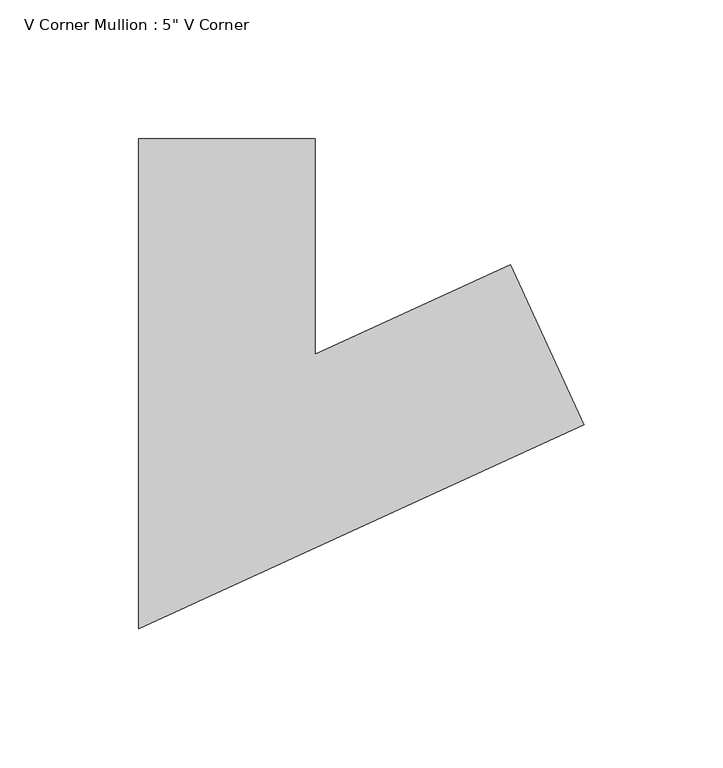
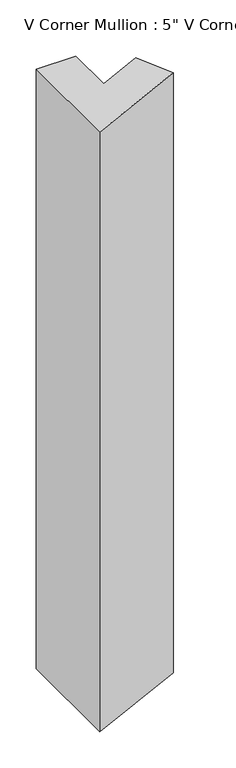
"""IFC4 building model written with IfcOpenShell, lengths in millimetres: member geometry."""

from ifc_helpers import new_model, si_unit, frame, origin, place, context, project, spatial, polyline, outline, extrude, source, transform, mapped, element, save


def member_919c0065(model_context):
    return source(origin(), model_context, "Body", "SweptSolid", [
        extrude(outline(polyline([(87.9205542, -39.5195451), (-72.5228811, -112.9476953), (-72.5228811, 63.5), (-9.0228811, 63.5), (-9.0228811, -14.0523047), (61.49523, 18.2208415), (87.9205542, -39.5195451)])), frame((0.0, 0.0, -1016.0), z_axis=(0.0, 0.0, 1.0), x_axis=(1.0, 0.0, 0.0)), (0.0, 0.0, 1.0), 1016.0),
    ])


if __name__ == "__main__":
    model = new_model("IFC4")
    model_context = context("Model", 3, world=origin())
    ifc_project = project(units=[si_unit("LENGTHUNIT", "METRE", prefix="MILLI")], contexts=[model_context])
    site = spatial("IfcSite", under=ifc_project)
    building = spatial("IfcBuilding", under=site)
    placement = place(None, origin())
    member_shape = member_919c0065(model_context)
    element("IfcMember", 1, ObjectType="V Corner Mullion : 5\" V Corner", at=placement, inside=building, context=model_context, shape_type="MappedRepresentation", body=[
        mapped(member_shape, transform((0.0, 0.0, 0.0), x_axis=(1.0, 0.0, 0.0), y_axis=(0.0, 1.0, 0.0), z_axis=(0.0, 0.0, 1.0))),
    ])
    save(model, "model.ifc")
